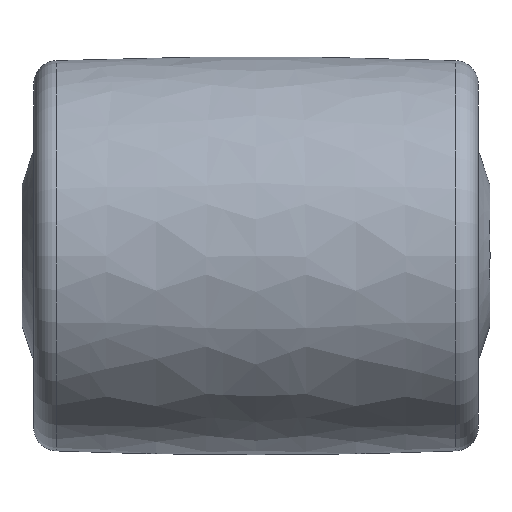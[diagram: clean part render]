
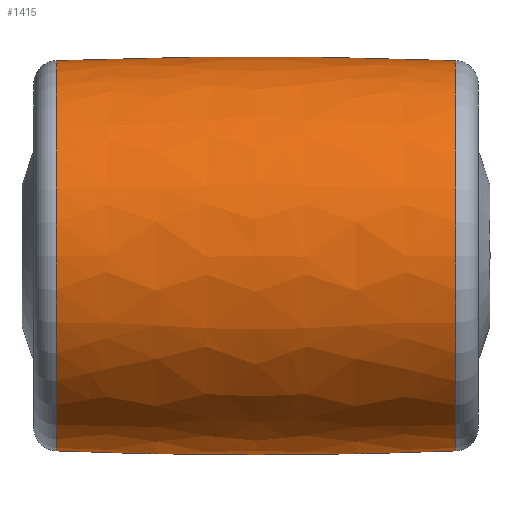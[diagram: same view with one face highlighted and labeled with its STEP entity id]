
A CAD part, front view. The second image highlights one B-rep face of the part: STEP entity #1415.
In plain terms, the highlighted free-form (B-spline) face has degree [2, 2] with [3, 9] control points.
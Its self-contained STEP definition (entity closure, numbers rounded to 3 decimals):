
#49=(
BOUNDED_SURFACE()
B_SPLINE_SURFACE(2,2,((#2486,#2487,#2488,#2489,#2490,#2491,#2492,#2493,
#2494),(#2495,#2496,#2497,#2498,#2499,#2500,#2501,#2502,#2503),(#2504,#2505,
#2506,#2507,#2508,#2509,#2510,#2511,#2512)),.UNSPECIFIED.,.F.,.T.,.F.)
B_SPLINE_SURFACE_WITH_KNOTS((3,3),(3,2,2,2,3),(-0.038,0.038),
(-3.142,-1.571,0.,1.571,3.142),
 .UNSPECIFIED.)
GEOMETRIC_REPRESENTATION_ITEM()
RATIONAL_B_SPLINE_SURFACE(((1.,0.707,1.,0.707,1.,
0.707,1.,0.707,1.),(0.999,0.707,
0.999,0.707,0.999,0.707,
0.999,0.707,0.999),(1.,0.707,
1.,0.707,1.,0.707,1.,0.707,1.)))
REPRESENTATION_ITEM('')
SURFACE()
);
#281=FACE_OUTER_BOUND('',#373,.T.);
#373=EDGE_LOOP('',(#1083,#1084,#1085,#1086,#1087,#1088));
#495=CIRCLE('',#1622,41.692);
#496=CIRCLE('',#1623,41.692);
#498=CIRCLE('',#1625,41.692);
#499=CIRCLE('',#1626,41.692);
#500=CIRCLE('',#1627,1128.625);
#653=VERTEX_POINT('',#2481);
#654=VERTEX_POINT('',#2482);
#655=VERTEX_POINT('',#2513);
#656=VERTEX_POINT('',#2514);
#829=EDGE_CURVE('',#653,#654,#495,.T.);
#830=EDGE_CURVE('',#654,#653,#496,.T.);
#832=EDGE_CURVE('',#655,#656,#498,.T.);
#833=EDGE_CURVE('',#656,#655,#499,.T.);
#834=EDGE_CURVE('',#656,#654,#500,.T.);
#1083=ORIENTED_EDGE('',*,*,#832,.F.);
#1084=ORIENTED_EDGE('',*,*,#833,.F.);
#1085=ORIENTED_EDGE('',*,*,#834,.T.);
#1086=ORIENTED_EDGE('',*,*,#830,.T.);
#1087=ORIENTED_EDGE('',*,*,#829,.T.);
#1088=ORIENTED_EDGE('',*,*,#834,.F.);
#1415=ADVANCED_FACE('',(#281),#49,.F.);
#1622=AXIS2_PLACEMENT_3D('',#2483,#1953,#1954);
#1623=AXIS2_PLACEMENT_3D('',#2484,#1955,#1956);
#1625=AXIS2_PLACEMENT_3D('',#2515,#1959,#1960);
#1626=AXIS2_PLACEMENT_3D('',#2516,#1961,#1962);
#1627=AXIS2_PLACEMENT_3D('',#2517,#1963,#1964);
#1953=DIRECTION('center_axis',(1.,0.,0.));
#1954=DIRECTION('ref_axis',(0.,0.,-1.));
#1955=DIRECTION('center_axis',(1.,0.,0.));
#1956=DIRECTION('ref_axis',(0.,0.,-1.));
#1959=DIRECTION('center_axis',(1.,0.,0.));
#1960=DIRECTION('ref_axis',(0.,0.,-1.));
#1961=DIRECTION('center_axis',(1.,0.,0.));
#1962=DIRECTION('ref_axis',(0.,0.,-1.));
#1963=DIRECTION('center_axis',(0.,-1.,0.));
#1964=DIRECTION('ref_axis',(0.,0.,1.));
#2481=CARTESIAN_POINT('',(4.811,0.,-41.692));
#2482=CARTESIAN_POINT('',(4.811,0.,41.692));
#2483=CARTESIAN_POINT('Origin',(4.811,0.,0.));
#2484=CARTESIAN_POINT('Origin',(4.811,0.,0.));
#2486=CARTESIAN_POINT('Ctrl Pts',(4.811,0.,41.692));
#2487=CARTESIAN_POINT('Ctrl Pts',(4.811,-41.692,41.692));
#2488=CARTESIAN_POINT('Ctrl Pts',(4.811,-41.692,0.));
#2489=CARTESIAN_POINT('Ctrl Pts',(4.811,-41.692,-41.692));
#2490=CARTESIAN_POINT('Ctrl Pts',(4.811,0.,-41.692));
#2491=CARTESIAN_POINT('Ctrl Pts',(4.811,41.692,-41.692));
#2492=CARTESIAN_POINT('Ctrl Pts',(4.811,41.692,0.));
#2493=CARTESIAN_POINT('Ctrl Pts',(4.811,41.692,41.692));
#2494=CARTESIAN_POINT('Ctrl Pts',(4.811,0.,41.692));
#2495=CARTESIAN_POINT('Ctrl Pts',(47.5,0.,43.308));
#2496=CARTESIAN_POINT('Ctrl Pts',(47.5,-43.308,43.308));
#2497=CARTESIAN_POINT('Ctrl Pts',(47.5,-43.308,0.));
#2498=CARTESIAN_POINT('Ctrl Pts',(47.5,-43.308,-43.308));
#2499=CARTESIAN_POINT('Ctrl Pts',(47.5,0.,-43.308));
#2500=CARTESIAN_POINT('Ctrl Pts',(47.5,43.308,-43.308));
#2501=CARTESIAN_POINT('Ctrl Pts',(47.5,43.308,0.));
#2502=CARTESIAN_POINT('Ctrl Pts',(47.5,43.308,43.308));
#2503=CARTESIAN_POINT('Ctrl Pts',(47.5,0.,43.308));
#2504=CARTESIAN_POINT('Ctrl Pts',(90.189,0.,41.692));
#2505=CARTESIAN_POINT('Ctrl Pts',(90.189,-41.692,41.692));
#2506=CARTESIAN_POINT('Ctrl Pts',(90.189,-41.692,0.));
#2507=CARTESIAN_POINT('Ctrl Pts',(90.189,-41.692,-41.692));
#2508=CARTESIAN_POINT('Ctrl Pts',(90.189,0.,-41.692));
#2509=CARTESIAN_POINT('Ctrl Pts',(90.189,41.692,-41.692));
#2510=CARTESIAN_POINT('Ctrl Pts',(90.189,41.692,0.));
#2511=CARTESIAN_POINT('Ctrl Pts',(90.189,41.692,41.692));
#2512=CARTESIAN_POINT('Ctrl Pts',(90.189,0.,41.692));
#2513=CARTESIAN_POINT('',(90.189,0.,-41.692));
#2514=CARTESIAN_POINT('',(90.189,0.,41.692));
#2515=CARTESIAN_POINT('Origin',(90.189,0.,0.));
#2516=CARTESIAN_POINT('Origin',(90.189,0.,0.));
#2517=CARTESIAN_POINT('Origin',(47.5,0.,-1086.125));
